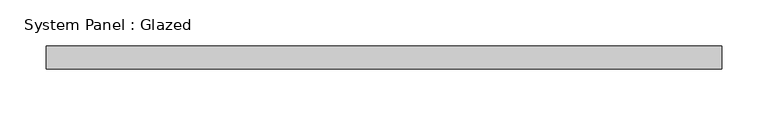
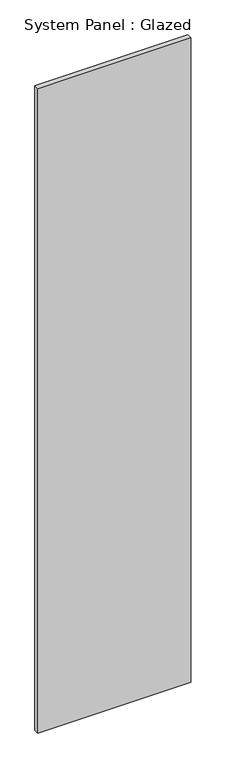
"""IFC4 building model written with IfcOpenShell, lengths in millimetres: plate geometry, System Panel : Glazed."""

from ifc_helpers import new_model, si_unit, origin, origin_with_axes, place, context, project, spatial, polyline, outline, extrude, source, transform, mapped, element, save


def system_panel_glazed_06997634(model_context):
    return source(origin(), model_context, "Body", "SweptSolid", [
        extrude(outline(polyline([(365.0000002, 24.5), (-365.0000002, 24.5), (-365.0000002, 49.5), (365.0000002, 49.5), (365.0000002, 24.5)])), origin_with_axes(), (0.0, 0.0, 1.0), 3250.0),
    ])


if __name__ == "__main__":
    model = new_model("IFC4")
    model_context = context("Model", 3, world=origin())
    ifc_project = project(units=[si_unit("LENGTHUNIT", "METRE", prefix="MILLI")], contexts=[model_context])
    site = spatial("IfcSite", under=ifc_project)
    building = spatial("IfcBuilding", under=site)
    placement = place(None, origin())
    system_panel_glazed_shape = system_panel_glazed_06997634(model_context)
    element("IfcPlate", 1, ObjectType="System Panel : Glazed", at=placement, inside=building, context=model_context, shape_type="MappedRepresentation", body=[
        mapped(system_panel_glazed_shape, transform((0.0, 0.0, 0.0), x_axis=(1.0, 0.0, 0.0), y_axis=(0.0, 1.0, 0.0), z_axis=(0.0, 0.0, 1.0))),
    ])
    save(model, "model.ifc")
